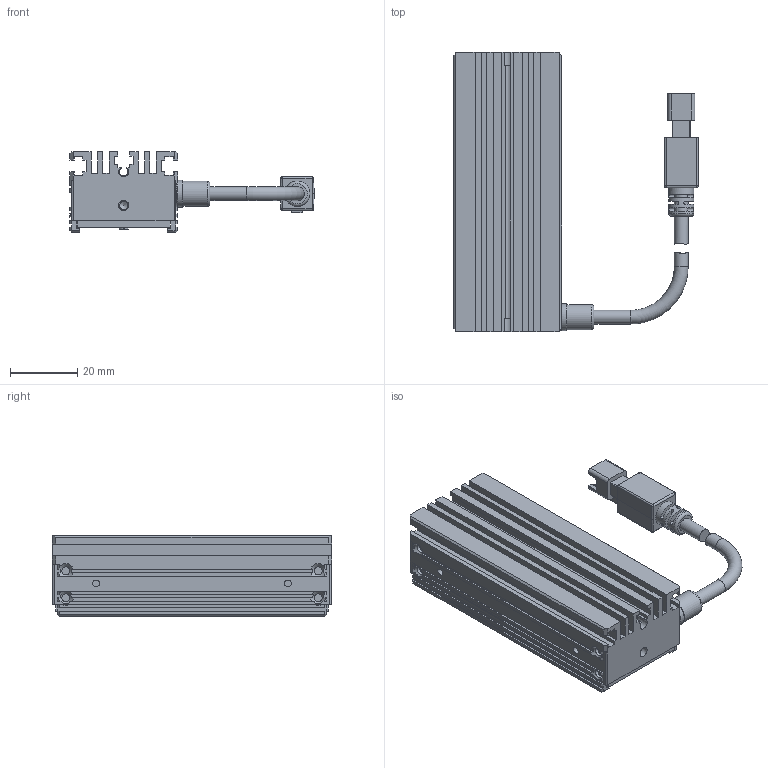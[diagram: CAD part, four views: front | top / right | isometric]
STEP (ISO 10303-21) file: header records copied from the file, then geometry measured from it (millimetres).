
FILE_DESCRIPTION (( 'STEP AP214' ), '1' );
FILE_NAME ('OPT-ILI8332-IR-V1.0U尨砩芞.STEP', '2025-01-18T07:37:40', ( '' ), ( '' ), 'SwSTEP 2.0', 'SolidWorks 2016', '' );
FILE_SCHEMA (( 'AUTOMOTIVE_DESIGN' ));
Length unit declared in the file: millimetre
Products named in the file (1): OPT-ILI8332-IR-V1.0U尨砩芞
Bounding box: 72.6 x 83 x 24 mm (x, y, z)
Volume: 52146.9 mm3; surface area: 25100.9 mm2
Topology: 5 solids, 15 shells, 631 faces, 1641 edges, 1055 vertices
Faces by surface type: plane 435, cylinder 136, cone 30, bspline 20, torus 10
Full cylindrical faces by diameter (mm): 1.1 x2, 1.4 x4, 1.6 x7, 1.8 x2, 2 x11, 2.4 x7, 2.5 x2, 2.6 x2, 3 x2, 3.5 x1, 4.1 x3, 7.5 x2, 8 x1
Entity records: 25963 total; most frequent: CARTESIAN_POINT 4372, ORIENTED_EDGE 3058, DIRECTION 2944, EDGE_CURVE 1529, LINE 1070, VECTOR 1070, VERTEX_POINT 1021, AXIS2_PLACEMENT_3D 937
